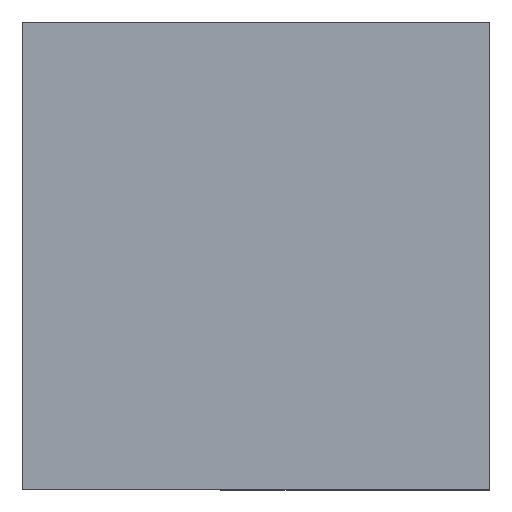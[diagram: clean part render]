
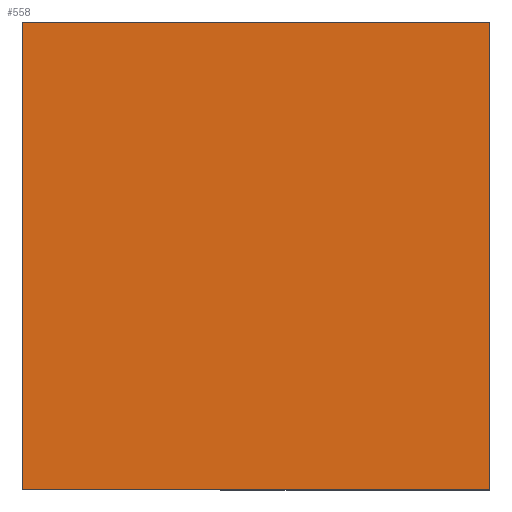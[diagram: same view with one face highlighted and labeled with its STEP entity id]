
A CAD part, top view. The second image highlights one B-rep face of the part: STEP entity #558.
In plain terms, the highlighted planar face has unit normal (0, 0, 1).
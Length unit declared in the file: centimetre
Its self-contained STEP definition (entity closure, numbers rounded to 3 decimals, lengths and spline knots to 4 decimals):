
#14 = CARTESIAN_POINT ( 'NONE',  ( 1000., 0., 1000. ) ) ;
#17 = CARTESIAN_POINT ( 'NONE',  ( 0., 1000., 1000. ) ) ;
#18 = FACE_OUTER_BOUND ( 'NONE', #439, .T. ) ;
#23 = DIRECTION ( 'NONE',  ( 1., 0., 0. ) ) ;
#34 = VECTOR ( 'NONE', #23, 100. ) ;
#39 = DIRECTION ( 'NONE',  ( -1., 0., 0. ) ) ;
#54 = CARTESIAN_POINT ( 'NONE',  ( 0., 1000., 1000. ) ) ;
#90 = CARTESIAN_POINT ( 'NONE',  ( 0., 1000., 1000. ) ) ;
#99 = VECTOR ( 'NONE', #667, 100. ) ;
#100 = CARTESIAN_POINT ( 'NONE',  ( 1000., 1000., 1000. ) ) ;
#116 = LINE ( 'NONE', #272, #34 ) ;
#144 = EDGE_CURVE ( 'NONE', #295, #347, #481, .T. ) ;
#177 = ORIENTED_EDGE ( 'NONE', *, *, #144, .T. ) ;
#222 = PLANE ( 'NONE',  #500 ) ;
#232 = DIRECTION ( 'NONE',  ( 1., 0., 0. ) ) ;
#236 = CARTESIAN_POINT ( 'NONE',  ( 1000., 1000., 1000. ) ) ;
#272 = CARTESIAN_POINT ( 'NONE',  ( 0., 0., 1000. ) ) ;
#285 = EDGE_CURVE ( 'NONE', #370, #466, #561, .T. ) ;
#295 = VERTEX_POINT ( 'NONE', #54 ) ;
#342 = DIRECTION ( 'NONE',  ( 0., 1., 0. ) ) ;
#344 = ORIENTED_EDGE ( 'NONE', *, *, #509, .T. ) ;
#347 = VERTEX_POINT ( 'NONE', #578 ) ;
#370 = VERTEX_POINT ( 'NONE', #14 ) ;
#439 = EDGE_LOOP ( 'NONE', ( #177, #344, #467, #595 ) ) ;
#466 = VERTEX_POINT ( 'NONE', #236 ) ;
#467 = ORIENTED_EDGE ( 'NONE', *, *, #285, .T. ) ;
#481 = LINE ( 'NONE', #17, #99 ) ;
#500 = AXIS2_PLACEMENT_3D ( 'NONE', #638, #599, #232 ) ;
#509 = EDGE_CURVE ( 'NONE', #347, #370, #116, .T. ) ;
#511 = VECTOR ( 'NONE', #39, 100. ) ;
#554 = LINE ( 'NONE', #90, #511 ) ;
#558 = ADVANCED_FACE ( 'NONE', ( #18 ), #222, .T. ) ;
#561 = LINE ( 'NONE', #100, #648 ) ;
#578 = CARTESIAN_POINT ( 'NONE',  ( 0., 0., 1000. ) ) ;
#595 = ORIENTED_EDGE ( 'NONE', *, *, #635, .T. ) ;
#599 = DIRECTION ( 'NONE',  ( 0., 0., 1. ) ) ;
#635 = EDGE_CURVE ( 'NONE', #466, #295, #554, .T. ) ;
#638 = CARTESIAN_POINT ( 'NONE',  ( 0., 0., 1000. ) ) ;
#648 = VECTOR ( 'NONE', #342, 100. ) ;
#667 = DIRECTION ( 'NONE',  ( 0., -1., 0. ) ) ;
